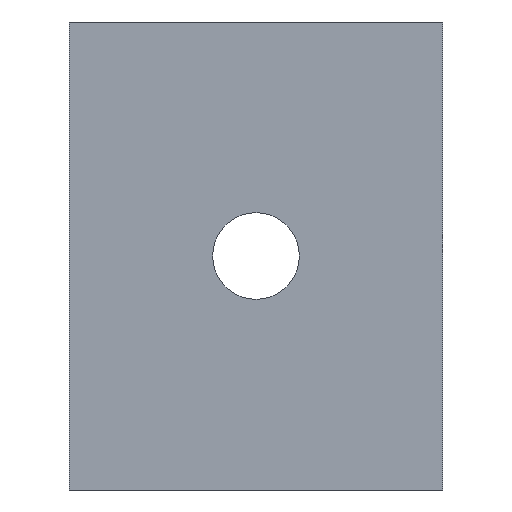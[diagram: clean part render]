
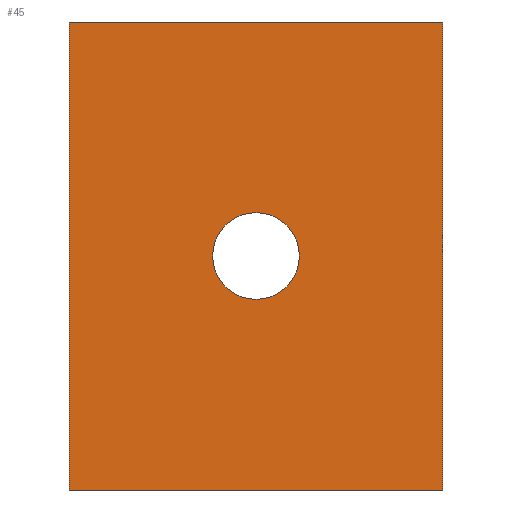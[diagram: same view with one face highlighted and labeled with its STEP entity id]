
A CAD part, front view. The second image highlights one B-rep face of the part: STEP entity #45.
In plain terms, the highlighted planar face has unit normal (0, -1, 0).
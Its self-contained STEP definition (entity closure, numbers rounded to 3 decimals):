
#9 = LINE ( 'NONE', #185, #213 ) ;
#11 = DIRECTION ( 'NONE',  ( 0., 0., -1. ) ) ;
#12 = CARTESIAN_POINT ( 'NONE',  ( -197., 0., -247. ) ) ;
#15 = ORIENTED_EDGE ( 'NONE', *, *, #127, .F. ) ;
#20 = DIRECTION ( 'NONE',  ( -1., 0., 0. ) ) ;
#27 = EDGE_CURVE ( 'NONE', #242, #177, #9, .T. ) ;
#30 = ORIENTED_EDGE ( 'NONE', *, *, #155, .T. ) ;
#33 = CIRCLE ( 'NONE', #183, 45.75 ) ;
#35 = CARTESIAN_POINT ( 'NONE',  ( 0., 0., 45.75 ) ) ;
#38 = EDGE_CURVE ( 'NONE', #39, #222, #103, .T. ) ;
#39 = VERTEX_POINT ( 'NONE', #182 ) ;
#44 = AXIS2_PLACEMENT_3D ( 'NONE', #275, #253, #160 ) ;
#45 = ADVANCED_FACE ( 'NONE', ( #193, #69 ), #137, .T. ) ;
#49 = VECTOR ( 'NONE', #131, 1000. ) ;
#54 = EDGE_LOOP ( 'NONE', ( #15, #93, #90, #76 ) ) ;
#57 = DIRECTION ( 'NONE',  ( 0., 1., 0. ) ) ;
#69 = FACE_BOUND ( 'NONE', #112, .T. ) ;
#72 = CARTESIAN_POINT ( 'NONE',  ( 0., 0., 0. ) ) ;
#76 = ORIENTED_EDGE ( 'NONE', *, *, #38, .F. ) ;
#90 = ORIENTED_EDGE ( 'NONE', *, *, #117, .F. ) ;
#93 = ORIENTED_EDGE ( 'NONE', *, *, #27, .F. ) ;
#94 = DIRECTION ( 'NONE',  ( 0., 0., 1. ) ) ;
#96 = CARTESIAN_POINT ( 'NONE',  ( 197., 0., 247. ) ) ;
#99 = VERTEX_POINT ( 'NONE', #246 ) ;
#101 = DIRECTION ( 'NONE',  ( 1., 0., 0. ) ) ;
#103 = LINE ( 'NONE', #186, #123 ) ;
#112 = EDGE_LOOP ( 'NONE', ( #30, #157 ) ) ;
#115 = LINE ( 'NONE', #203, #49 ) ;
#117 = EDGE_CURVE ( 'NONE', #222, #242, #115, .T. ) ;
#123 = VECTOR ( 'NONE', #20, 1000. ) ;
#127 = EDGE_CURVE ( 'NONE', #177, #39, #189, .T. ) ;
#128 = VECTOR ( 'NONE', #11, 1000. ) ;
#131 = DIRECTION ( 'NONE',  ( 0., 0., 1. ) ) ;
#137 = PLANE ( 'NONE',  #44 ) ;
#142 = EDGE_CURVE ( 'NONE', #207, #99, #33, .T. ) ;
#154 = CARTESIAN_POINT ( 'NONE',  ( 0., 0., 0. ) ) ;
#155 = EDGE_CURVE ( 'NONE', #99, #207, #261, .T. ) ;
#157 = ORIENTED_EDGE ( 'NONE', *, *, #142, .T. ) ;
#160 = DIRECTION ( 'NONE',  ( 0., 0., -1. ) ) ;
#174 = CARTESIAN_POINT ( 'NONE',  ( 197., 0., 247. ) ) ;
#177 = VERTEX_POINT ( 'NONE', #96 ) ;
#178 = CARTESIAN_POINT ( 'NONE',  ( -197., 0., 247. ) ) ;
#182 = CARTESIAN_POINT ( 'NONE',  ( 197., 0., -247. ) ) ;
#183 = AXIS2_PLACEMENT_3D ( 'NONE', #154, #57, #228 ) ;
#185 = CARTESIAN_POINT ( 'NONE',  ( -197., 0., 247. ) ) ;
#186 = CARTESIAN_POINT ( 'NONE',  ( -197., 0., -247. ) ) ;
#189 = LINE ( 'NONE', #174, #128 ) ;
#193 = FACE_OUTER_BOUND ( 'NONE', #54, .T. ) ;
#203 = CARTESIAN_POINT ( 'NONE',  ( -197., 0., 247. ) ) ;
#207 = VERTEX_POINT ( 'NONE', #35 ) ;
#213 = VECTOR ( 'NONE', #101, 1000. ) ;
#222 = VERTEX_POINT ( 'NONE', #12 ) ;
#227 = DIRECTION ( 'NONE',  ( 0., 1., 0. ) ) ;
#228 = DIRECTION ( 'NONE',  ( 0., 0., 1. ) ) ;
#242 = VERTEX_POINT ( 'NONE', #178 ) ;
#246 = CARTESIAN_POINT ( 'NONE',  ( 0., 0., -45.75 ) ) ;
#253 = DIRECTION ( 'NONE',  ( 0., -1., 0. ) ) ;
#261 = CIRCLE ( 'NONE', #274, 45.75 ) ;
#274 = AXIS2_PLACEMENT_3D ( 'NONE', #72, #227, #94 ) ;
#275 = CARTESIAN_POINT ( 'NONE',  ( 0., 0., 0. ) ) ;
